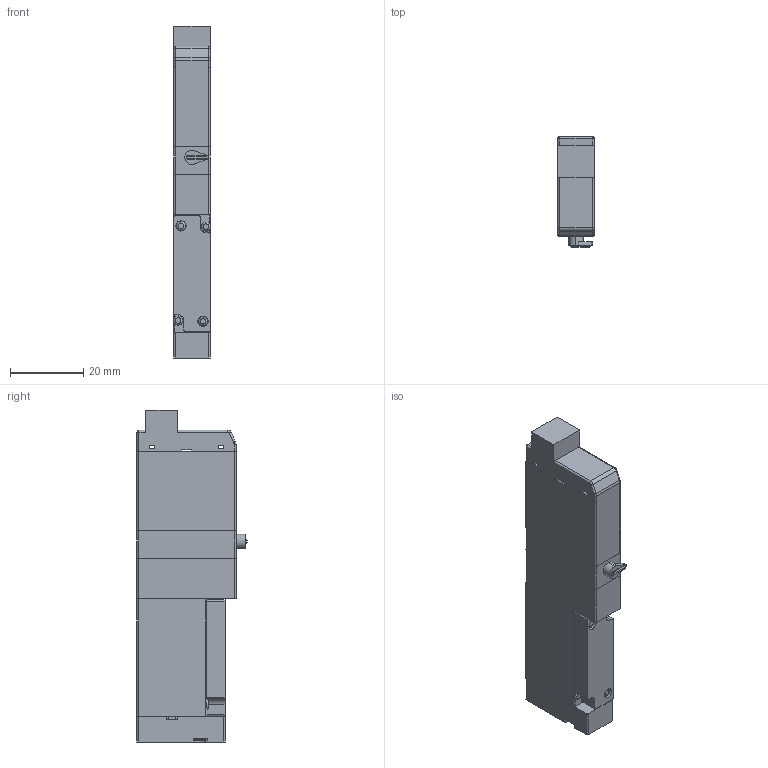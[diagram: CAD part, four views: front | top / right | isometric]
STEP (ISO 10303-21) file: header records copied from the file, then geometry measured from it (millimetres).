
FILE_DESCRIPTION( (''), '2;1');
FILE_NAME ('CVICAD02.13484.F10T0-R-A1-PN_5672.stp','2020-09-01T14:09:38',(''),(''),'spGate 12.6.6','','');
FILE_SCHEMA (('AUTOMOTIVE_DESIGN'));
Length unit declared in the file: millimetre
Products named in the file (7): Assembly; F10T_Body; F10_Adptor; F10_Cap; F_Connector-PN; F10_A1; F_3PortBody-R
Assembly tree (6 placements, depth 2):
  Assembly
    F10T_Body
    F10_Adptor
    F10_Cap
    F_Connector-PN
    F10_A1
    F_3PortBody-R
Bounding box: 10.2 x 30 x 90.5 mm (x, y, z)
Volume: 21771.4 mm3; surface area: 10001.1 mm2
Topology: 6 solids, 6 shells, 215 faces, 530 edges, 338 vertices
Faces by surface type: plane 103, cylinder 86, bspline 20, sphere 6
Entity records: 11108 total; most frequent: CARTESIAN_POINT 1524, DIRECTION 1111, ORIENTED_EDGE 1048, COLOUR_RGB 745, PRESENTATION_STYLE_ASSIGNMENT 745, STYLED_ITEM 745, EDGE_CURVE 524, DRAUGHTING_PRE_DEFINED_CURVE_FONT 524
